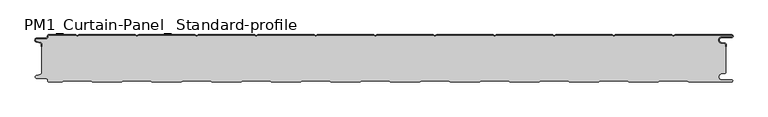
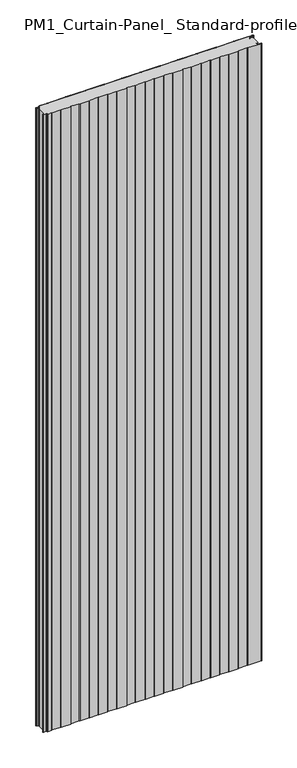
"""IFC4 building model written with IfcOpenShell, lengths in millimetres: plate geometry, PM1_Curtain-Panel_ Standard-profile : ACH_PM1_Acoustic-Sectioning-Panel_80M."""

from ifc_helpers import new_model, si_unit, point, frame, frame_2d, origin, origin_with_axes, place, context, project, spatial, polyline, circle_curve, trimmed, segment, composite_curve, outline, extrude, source, transform, mapped, element, save
from ifc_brep_helpers import plane_surface, cylinder_surface, revolved_surface, advanced_brep


def pm1_curtain_panel_standard_profile_70a947a0(model_context):
    return source(origin(), model_context, "Body", "SolidModel", [
        advanced_brep(
        [(-575.0, -15.878557, 3500.0), (-575.0, -20.0, 3500.0), (-574.2, -20.0, 3500.0), (-574.2, -15.878557, 3500.0), (-576.370137, -13.1503208, 3500.0), (-582.529863, -11.728236, 3500.0), (-581.9, -6.2, 3500.0), (-566.4, -6.2, 3500.0), (-563.6, -3.4, 3500.0), (-563.6, -2.0, 3500.0), (-562.4, -0.8, 3500.0), (-517.3143588, -0.8, 3500.0), (-514.4, -2.482606, 3500.0), (-511.4856412, -0.8, 3500.0), (-417.3143588, -0.8, 3500.0), (-414.4, -2.482606, 3500.0), (-411.4856412, -0.8, 3500.0), (-317.3143588, -0.8, 3500.0), (-314.4, -2.482606, 3500.0), (-311.4856412, -0.8, 3500.0), (-217.3143588, -0.8, 3500.0), (-214.4, -2.482606, 3500.0), (-211.4856412, -0.8, 3500.0), (-117.3143588, -0.8, 3500.0), (-114.4, -2.482606, 3500.0), (-111.4856412, -0.8, 3500.0), (-17.3143588, -0.8, 3500.0), (-14.4, -2.482606, 3500.0), (-11.4856412, -0.8, 3500.0), (82.6856412, -0.8, 3500.0), (85.6, -2.482606, 3500.0), (88.5143588, -0.8, 3500.0), (182.6856412, -0.8, 3500.0), (185.6, -2.482606, 3500.0), (188.5143588, -0.8, 3500.0), (282.6856412, -0.8, 3500.0), (285.6, -2.482606, 3500.0), (288.5143588, -0.8, 3500.0), (382.6856412, -0.8, 3500.0), (385.6, -2.482606, 3500.0), (388.5143588, -0.8, 3500.0), (482.6856412, -0.8, 3500.0), (485.6, -2.482606, 3500.0), (488.5143588, -0.8, 3500.0), (583.1, -0.8, 3500.0), (583.1, -4.2, 3500.0), (566.1, -4.2, 3500.0), (565.2664884, -13.7270771, 3500.0), (571.7125669, -14.8636953, 3500.0), (573.2, -16.6363492, 3500.0), (573.2, -20.0, 3500.0), (574.0, -20.0, 3500.0), (574.0, -16.6363492, 3500.0), (571.8514855, -14.0758491, 3500.0), (565.405407, -12.939231, 3500.0), (566.1, -5.0, 3500.0), (583.1, -5.0, 3500.0), (585.6, -2.5, 3500.0), (583.1, 0.0, 3500.0), (488.2999995, 0.0, 3500.0), (485.6, -1.5588455, 3500.0), (482.9000005, 0.0, 3500.0), (388.2999995, 0.0, 3500.0), (385.6, -1.5588455, 3500.0), (382.9000005, 0.0, 3500.0), (288.2999995, 0.0, 3500.0), (285.6, -1.5588455, 3500.0), (282.9000005, 0.0, 3500.0), (188.2999995, 0.0, 3500.0), (185.6, -1.5588455, 3500.0), (182.9000005, 0.0, 3500.0), (88.2999995, 0.0, 3500.0), (85.6, -1.5588455, 3500.0), (82.9000005, 0.0, 3500.0), (-11.7000005, 0.0, 3500.0), (-14.4, -1.5588455, 3500.0), (-17.0999995, 0.0, 3500.0), (-111.7000005, 0.0, 3500.0), (-114.4, -1.5588455, 3500.0), (-117.0999995, 0.0, 3500.0), (-211.7000005, 0.0, 3500.0), (-214.4, -1.5588455, 3500.0), (-217.0999995, 0.0, 3500.0), (-311.7000005, 0.0, 3500.0), (-314.4, -1.5588455, 3500.0), (-317.0999995, 0.0, 3500.0), (-411.7000005, 0.0, 3500.0), (-414.4, -1.5588455, 3500.0), (-417.0999995, 0.0, 3500.0), (-511.7000005, 0.0, 3500.0), (-514.4, -1.5588455, 3500.0), (-517.0999995, 0.0, 3500.0), (-562.4, 0.0, 3500.0), (-564.4, -2.0, 3500.0), (-564.4, -3.4, 3500.0), (-566.4, -5.4, 3500.0), (-581.9, -5.4, 3500.0), (-582.7098239, -12.5077322, 3500.0), (-576.5500979, -13.929817, 3500.0), (-575.0, -15.878557, 0.0), (-576.5500978, -13.9298169, 0.0), (-582.7098239, -12.507732, 0.0), (-581.9, -5.4, 0.0), (-566.4, -5.4, 0.0), (-564.4, -3.4, 0.0), (-564.4, -2.0, 0.0), (-562.4, 0.0, 0.0), (-517.0999995, 0.0, 0.0), (-514.4, -1.5588455, 0.0), (-511.7000005, 0.0, 0.0), (-417.0999995, 0.0, 0.0), (-414.4, -1.5588455, 0.0), (-411.7000005, 0.0, 0.0), (-317.0999995, 0.0, 0.0), (-314.4, -1.5588455, 0.0), (-311.7000005, 0.0, 0.0), (-217.0999995, 0.0, 0.0), (-214.4, -1.5588455, 0.0), (-211.7000005, 0.0, 0.0), (-117.0999995, 0.0, 0.0), (-114.4, -1.5588455, 0.0), (-111.7000005, 0.0, 0.0), (-17.0999995, 0.0, 0.0), (-14.4, -1.5588455, 0.0), (-11.7000005, 0.0, 0.0), (82.9000005, 0.0, 0.0), (85.6, -1.5588455, 0.0), (88.2999995, 0.0, 0.0), (182.9000005, 0.0, 0.0), (185.6, -1.5588455, 0.0), (188.2999995, 0.0, 0.0), (282.9000005, 0.0, 0.0), (285.6, -1.5588455, 0.0), (288.2999995, 0.0, 0.0), (382.9000005, 0.0, 0.0), (385.6, -1.5588455, 0.0), (388.2999995, 0.0, 0.0), (482.9000005, 0.0, 0.0), (485.6, -1.5588455, 0.0), (488.2999995, 0.0, 0.0), (583.1, 0.0, 0.0), (585.6, -2.5, 0.0), (583.1, -5.0, 0.0), (566.1, -5.0, 0.0), (565.405407, -12.939231, 0.0), (571.8514855, -14.0758491, 0.0), (574.0, -16.6363492, 0.0), (574.0, -20.0, 0.0), (573.2, -20.0, 0.0), (573.2, -16.6363492, 0.0), (571.7125669, -14.8636953, 0.0), (565.2664884, -13.7270772, 0.0), (566.1, -4.2, 0.0), (583.1, -4.2, 0.0), (583.1, -0.8, 0.0), (488.5143588, -0.8, 0.0), (485.6, -2.482606, 0.0), (482.6856412, -0.8, 0.0), (388.5143588, -0.8, 0.0), (385.6, -2.482606, 0.0), (382.6856412, -0.8, 0.0), (288.5143588, -0.8, 0.0), (285.6, -2.482606, 0.0), (282.6856412, -0.8, 0.0), (188.5143588, -0.8, 0.0), (185.6, -2.482606, 0.0), (182.6856412, -0.8, 0.0), (88.5143588, -0.8, 0.0), (85.6, -2.482606, 0.0), (82.6856412, -0.8, 0.0), (-11.4856412, -0.8, 0.0), (-14.4, -2.482606, 0.0), (-17.3143588, -0.8, 0.0), (-111.4856412, -0.8, 0.0), (-114.4, -2.482606, 0.0), (-117.3143588, -0.8, 0.0), (-211.4856412, -0.8, 0.0), (-214.4, -2.482606, 0.0), (-217.3143588, -0.8, 0.0), (-311.4856412, -0.8, 0.0), (-314.4, -2.482606, 0.0), (-317.3143588, -0.8, 0.0), (-411.4856412, -0.8, 0.0), (-414.4, -2.482606, 0.0), (-417.3143588, -0.8, 0.0), (-511.4856412, -0.8, 0.0), (-514.4, -2.482606, 0.0), (-517.3143588, -0.8, 0.0), (-562.4, -0.8, 0.0), (-563.6, -2.0, 0.0), (-563.6, -3.4, 0.0), (-566.4, -6.2, 0.0), (-581.9, -6.2, 0.0), (-582.529863, -11.7282362, 0.0), (-576.370137, -13.150321, 0.0), (-574.2, -15.878557, 0.0), (-574.2, -20.0, 0.0), (-575.0, -20.0, 0.0)],
        [
            (0, 1),
            (1, 2),
            (2, 3),
            (3, 4, circle_curve(frame((-577.0, -15.878557, 3500.0), z_axis=(0.0, 0.0, 1.0), x_axis=(1.0, 0.0, 0.0)), 2.8)),
            (4, 5),
            (5, 6, circle_curve(frame((-581.9, -9.0, 3500.0), z_axis=(0.0, 0.0, -1.0), x_axis=(1.0, 0.0, 0.0)), 2.8)),
            (6, 7),
            (7, 8, circle_curve(frame((-566.4, -3.4, 3500.0), z_axis=(0.0, 0.0, 1.0), x_axis=(1.0, 0.0, 0.0)), 2.8)),
            (8, 9),
            (9, 10, circle_curve(frame((-562.4, -2.0, 3500.0), z_axis=(0.0, 0.0, -1.0), x_axis=(1.0, 0.0, 0.0)), 1.2)),
            (10, 11),
            (11, 12),
            (12, 13),
            (13, 14),
            (14, 15),
            (15, 16),
            (16, 17),
            (17, 18),
            (18, 19),
            (19, 20),
            (20, 21),
            (21, 22),
            (22, 23),
            (23, 24),
            (24, 25),
            (25, 26),
            (26, 27),
            (27, 28),
            (28, 29),
            (29, 30),
            (30, 31),
            (31, 32),
            (32, 33),
            (33, 34),
            (34, 35),
            (35, 36),
            (36, 37),
            (37, 38),
            (38, 39),
            (39, 40),
            (40, 41),
            (41, 42),
            (42, 43),
            (43, 44),
            (44, 45, circle_curve(frame((583.1, -2.5, 3500.0), z_axis=(0.0, 0.0, -1.0), x_axis=(1.0, 0.0, 0.0)), 1.7)),
            (45, 46),
            (46, 47, circle_curve(frame((566.1, -9.0, 3500.0), z_axis=(0.0, 0.0, 1.0), x_axis=(1.0, 0.0, 0.0)), 4.8)),
            (47, 48),
            (48, 49, circle_curve(frame((571.4, -16.6363492, 3500.0), z_axis=(0.0, 0.0, -1.0), x_axis=(1.0, 0.0, 0.0)), 1.8)),
            (49, 50),
            (50, 51),
            (51, 52),
            (52, 53, circle_curve(frame((571.4, -16.6363492, 3500.0), z_axis=(0.0, 0.0, 1.0), x_axis=(1.0, 0.0, 0.0)), 2.6)),
            (53, 54),
            (54, 55, circle_curve(frame((566.1, -9.0, 3500.0), z_axis=(0.0, 0.0, -1.0), x_axis=(1.0, 0.0, 0.0)), 4.0)),
            (55, 56),
            (56, 57, circle_curve(frame((583.1, -2.5, 3500.0), z_axis=(0.0, 0.0, 1.0), x_axis=(1.0, 0.0, 0.0)), 2.5)),
            (57, 58, circle_curve(frame((583.1, -2.5, 3500.0), z_axis=(0.0, 0.0, 1.0), x_axis=(1.0, 0.0, 0.0)), 2.5)),
            (58, 59),
            (59, 60),
            (60, 61),
            (61, 62),
            (62, 63),
            (63, 64),
            (64, 65),
            (65, 66),
            (66, 67),
            (67, 68),
            (68, 69),
            (69, 70),
            (70, 71),
            (71, 72),
            (72, 73),
            (73, 74),
            (74, 75),
            (75, 76),
            (76, 77),
            (77, 78),
            (78, 79),
            (79, 80),
            (80, 81),
            (81, 82),
            (82, 83),
            (83, 84),
            (84, 85),
            (85, 86),
            (86, 87),
            (87, 88),
            (88, 89),
            (89, 90),
            (90, 91),
            (91, 92),
            (92, 93, circle_curve(frame((-562.4, -2.0, 3500.0), z_axis=(0.0, 0.0, 1.0), x_axis=(1.0, 0.0, 0.0)), 2.0)),
            (93, 94),
            (94, 95, circle_curve(frame((-566.4, -3.4, 3500.0), z_axis=(0.0, 0.0, -1.0), x_axis=(1.0, 0.0, 0.0)), 2.0)),
            (95, 96),
            (96, 97, circle_curve(frame((-581.9, -9.0, 3500.0), z_axis=(0.0, 0.0, 1.0), x_axis=(1.0, 0.0, 0.0)), 3.6)),
            (97, 98),
            (98, 0, circle_curve(frame((-577.0, -15.878557, 3500.0), z_axis=(0.0, 0.0, -1.0), x_axis=(1.0, 0.0, 0.0)), 2.0)),
            (99, 100, circle_curve(frame((-577.0, -15.878557, 0.0), z_axis=(0.0, 0.0, 1.0), x_axis=(1.0, 0.0, 0.0)), 2.0)),
            (100, 101),
            (101, 102, circle_curve(frame((-581.9, -9.0, 0.0), z_axis=(0.0, 0.0, -1.0), x_axis=(1.0, 0.0, 0.0)), 3.6)),
            (102, 103),
            (103, 104, circle_curve(frame((-566.4, -3.4, 0.0), z_axis=(0.0, 0.0, 1.0), x_axis=(1.0, 0.0, 0.0)), 2.0)),
            (104, 105),
            (105, 106, circle_curve(frame((-562.4, -2.0, 0.0), z_axis=(0.0, 0.0, -1.0), x_axis=(1.0, 0.0, 0.0)), 2.0)),
            (106, 107),
            (107, 108),
            (108, 109),
            (109, 110),
            (110, 111),
            (111, 112),
            (112, 113),
            (113, 114),
            (114, 115),
            (115, 116),
            (116, 117),
            (117, 118),
            (118, 119),
            (119, 120),
            (120, 121),
            (121, 122),
            (122, 123),
            (123, 124),
            (124, 125),
            (125, 126),
            (126, 127),
            (127, 128),
            (128, 129),
            (129, 130),
            (130, 131),
            (131, 132),
            (132, 133),
            (133, 134),
            (134, 135),
            (135, 136),
            (136, 137),
            (137, 138),
            (138, 139),
            (139, 140),
            (140, 141, circle_curve(frame((583.1, -2.5, 0.0), z_axis=(0.0, 0.0, -1.0), x_axis=(1.0, 0.0, 0.0)), 2.5)),
            (141, 142, circle_curve(frame((583.1, -2.5, 0.0), z_axis=(0.0, 0.0, -1.0), x_axis=(1.0, 0.0, 0.0)), 2.5)),
            (142, 143),
            (143, 144, circle_curve(frame((566.1, -9.0, 0.0), z_axis=(0.0, 0.0, 1.0), x_axis=(1.0, 0.0, 0.0)), 4.0)),
            (144, 145),
            (145, 146, circle_curve(frame((571.4, -16.6363492, 0.0), z_axis=(0.0, 0.0, -1.0), x_axis=(1.0, 0.0, 0.0)), 2.6)),
            (146, 147),
            (147, 148),
            (148, 149),
            (149, 150, circle_curve(frame((571.4, -16.6363492, 0.0), z_axis=(0.0, 0.0, 1.0), x_axis=(1.0, 0.0, 0.0)), 1.8)),
            (150, 151),
            (151, 152, circle_curve(frame((566.1, -9.0, 0.0), z_axis=(0.0, 0.0, -1.0), x_axis=(1.0, 0.0, 0.0)), 4.8)),
            (152, 153),
            (153, 154, circle_curve(frame((583.1, -2.5, 0.0), z_axis=(0.0, 0.0, 1.0), x_axis=(1.0, 0.0, 0.0)), 1.7)),
            (154, 155),
            (155, 156),
            (156, 157),
            (157, 158),
            (158, 159),
            (159, 160),
            (160, 161),
            (161, 162),
            (162, 163),
            (163, 164),
            (164, 165),
            (165, 166),
            (166, 167),
            (167, 168),
            (168, 169),
            (169, 170),
            (170, 171),
            (171, 172),
            (172, 173),
            (173, 174),
            (174, 175),
            (175, 176),
            (176, 177),
            (177, 178),
            (178, 179),
            (179, 180),
            (180, 181),
            (181, 182),
            (182, 183),
            (183, 184),
            (184, 185),
            (185, 186),
            (186, 187),
            (187, 188),
            (188, 189, circle_curve(frame((-562.4, -2.0, 0.0), z_axis=(0.0, 0.0, 1.0), x_axis=(1.0, 0.0, 0.0)), 1.2)),
            (189, 190),
            (190, 191, circle_curve(frame((-566.4, -3.4, 0.0), z_axis=(0.0, 0.0, -1.0), x_axis=(1.0, 0.0, 0.0)), 2.8)),
            (191, 192),
            (192, 193, circle_curve(frame((-581.9, -9.0, 0.0), z_axis=(0.0, 0.0, 1.0), x_axis=(1.0, 0.0, 0.0)), 2.8)),
            (193, 194),
            (194, 195, circle_curve(frame((-577.0, -15.878557, 0.0), z_axis=(0.0, 0.0, -1.0), x_axis=(1.0, 0.0, 0.0)), 2.8)),
            (195, 196),
            (196, 197),
            (197, 99),
            (0, 99),
            (197, 1),
            (196, 2),
            (195, 3),
            (194, 4),
            (193, 5),
            (192, 6),
            (191, 7),
            (190, 8),
            (189, 9),
            (188, 10),
            (187, 11),
            (186, 12),
            (185, 13),
            (184, 14),
            (183, 15),
            (182, 16),
            (181, 17),
            (180, 18),
            (179, 19),
            (178, 20),
            (177, 21),
            (176, 22),
            (175, 23),
            (174, 24),
            (173, 25),
            (172, 26),
            (171, 27),
            (170, 28),
            (169, 29),
            (168, 30),
            (167, 31),
            (166, 32),
            (165, 33),
            (164, 34),
            (163, 35),
            (162, 36),
            (161, 37),
            (160, 38),
            (159, 39),
            (158, 40),
            (157, 41),
            (156, 42),
            (155, 43),
            (154, 44),
            (153, 45),
            (152, 46),
            (151, 47),
            (150, 48),
            (149, 49),
            (148, 50),
            (147, 51),
            (146, 52),
            (145, 53),
            (144, 54),
            (143, 55),
            (142, 56),
            (140, 58),
            (139, 59),
            (138, 60),
            (137, 61),
            (136, 62),
            (135, 63),
            (134, 64),
            (133, 65),
            (132, 66),
            (131, 67),
            (130, 68),
            (129, 69),
            (128, 70),
            (127, 71),
            (126, 72),
            (125, 73),
            (124, 74),
            (123, 75),
            (122, 76),
            (121, 77),
            (120, 78),
            (119, 79),
            (118, 80),
            (117, 81),
            (116, 82),
            (115, 83),
            (114, 84),
            (113, 85),
            (112, 86),
            (111, 87),
            (110, 88),
            (109, 89),
            (108, 90),
            (107, 91),
            (106, 92),
            (105, 93),
            (104, 94),
            (103, 95),
            (102, 96),
            (101, 97),
            (100, 98),
        ],
        [
            plane_surface(frame((-575.0, 0.0, 3500.0), z_axis=(0.0, 0.0, 1.0), x_axis=(0.0, 1.0, 0.0))),
            plane_surface(frame((-575.0, 0.0, 0.0), z_axis=(0.0, 0.0, -1.0), x_axis=(0.0, 1.0, 0.0))),
            plane_surface(frame((-575.0, -15.878557, 3500.0), z_axis=(-1.0, 0.0, 0.0), x_axis=(0.0, 0.0, -1.0))),
            plane_surface(frame((-575.0, -20.0, 3500.0), z_axis=(0.0, -1.0, 0.0), x_axis=(0.0, 0.0, -1.0))),
            plane_surface(frame((-574.2, -20.0, 3500.0), z_axis=(1.0, 0.0, 0.0), x_axis=(0.0, 0.0, -1.0))),
            cylinder_surface(frame((-577.0, -15.878557, 3500.0), z_axis=(0.0, 0.0, 1.0), x_axis=(1.0, 0.0, 0.0)), 2.8),
            plane_surface(frame((-576.370137, -13.150321, 3500.0), z_axis=(0.22495108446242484, 0.9743700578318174, 0.0), x_axis=(0.0, 0.0, -1.0))),
            revolved_surface(polyline([(-579.1, -9.0, 0.0), (-579.1, -9.0, 3500.0)]), (-581.9, -9.0, 3500.0), (0.0, 0.0, -1.0)),
            plane_surface(frame((-581.9, -6.2, 3500.0), z_axis=(0.0, -1.0, 0.0), x_axis=(0.0, 0.0, -1.0))),
            cylinder_surface(frame((-566.4, -3.4, 3500.0), z_axis=(0.0, 0.0, 1.0), x_axis=(1.0, 0.0, 0.0)), 2.8),
            plane_surface(frame((-563.6, -3.4, 3500.0), z_axis=(1.0, 0.0, 0.0), x_axis=(0.0, 0.0, -1.0))),
            revolved_surface(polyline([(-561.1999999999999, -2.0, 0.0), (-561.1999999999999, -2.0, 3500.0)]), (-562.4, -2.0, 3500.0), (0.0, 0.0, -1.0)),
            plane_surface(frame((-562.4, -0.8, 3500.0), z_axis=(0.0, -1.0, 0.0), x_axis=(0.0, 0.0, -1.0))),
            plane_surface(frame((-517.3143588, -0.8, 3500.0), z_axis=(-0.5000000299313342, -0.8660253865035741, 0.0), x_axis=(0.0, 0.0, -1.0))),
            plane_surface(frame((-514.4, -2.482606, 3500.0), z_axis=(0.5000000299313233, -0.8660253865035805, 0.0), x_axis=(0.0, 0.0, -1.0))),
            plane_surface(frame((-511.4856412, -0.8, 3500.0), z_axis=(0.0, -1.0, 0.0), x_axis=(0.0, 0.0, -1.0))),
            plane_surface(frame((-417.3143588, -0.8, 3500.0), z_axis=(-0.5000000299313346, -0.8660253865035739, 0.0), x_axis=(0.0, 0.0, -1.0))),
            plane_surface(frame((-414.4, -2.482606, 3500.0), z_axis=(0.5000000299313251, -0.8660253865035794, 0.0), x_axis=(0.0, 0.0, -1.0))),
            plane_surface(frame((-411.4856412, -0.8, 3500.0), z_axis=(0.0, -1.0, 0.0), x_axis=(0.0, 0.0, -1.0))),
            plane_surface(frame((-317.3143588, -0.8, 3500.0), z_axis=(-0.5000000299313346, -0.866025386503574, 0.0), x_axis=(0.0, 0.0, -1.0))),
            plane_surface(frame((-314.4, -2.482606, 3500.0), z_axis=(0.5000000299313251, -0.8660253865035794, 0.0), x_axis=(0.0, 0.0, -1.0))),
            plane_surface(frame((-311.4856412, -0.8, 3500.0), z_axis=(0.0, -1.0, 0.0), x_axis=(0.0, 0.0, -1.0))),
            plane_surface(frame((-217.3143588, -0.8, 3500.0), z_axis=(-0.5000000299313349, -0.8660253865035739, 0.0), x_axis=(0.0, 0.0, -1.0))),
            plane_surface(frame((-214.4, -2.482606, 3500.0), z_axis=(0.5000000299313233, -0.8660253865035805, 0.0), x_axis=(0.0, 0.0, -1.0))),
            plane_surface(frame((-211.4856412, -0.8, 3500.0), z_axis=(0.0, -1.0, 0.0), x_axis=(0.0, 0.0, -1.0))),
            plane_surface(frame((-117.3143588, -0.8, 3500.0), z_axis=(-0.5000000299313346, -0.866025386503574, 0.0), x_axis=(0.0, 0.0, -1.0))),
            plane_surface(frame((-114.4, -2.482606, 3500.0), z_axis=(0.5000000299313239, -0.8660253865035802, 0.0), x_axis=(0.0, 0.0, -1.0))),
            plane_surface(frame((-111.4856412, -0.8, 3500.0), z_axis=(0.0, -1.0, 0.0), x_axis=(0.0, 0.0, -1.0))),
            plane_surface(frame((-17.3143588, -0.8, 3500.0), z_axis=(-0.5000000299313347, -0.8660253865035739, 0.0), x_axis=(0.0, 0.0, -1.0))),
            plane_surface(frame((-14.4, -2.482606, 3500.0), z_axis=(0.5000000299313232, -0.8660253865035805, 0.0), x_axis=(0.0, 0.0, -1.0))),
            plane_surface(frame((-11.4856412, -0.8, 3500.0), z_axis=(0.0, -1.0, 0.0), x_axis=(0.0, 0.0, -1.0))),
            plane_surface(frame((82.6856412, -0.8, 3500.0), z_axis=(-0.5000000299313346, -0.866025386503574, 0.0), x_axis=(0.0, 0.0, -1.0))),
            plane_surface(frame((85.6, -2.482606, 3500.0), z_axis=(0.5000000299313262, -0.8660253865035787, 0.0), x_axis=(0.0, 0.0, -1.0))),
            plane_surface(frame((88.5143588, -0.8, 3500.0), z_axis=(0.0, -1.0, 0.0), x_axis=(0.0, 0.0, -1.0))),
            plane_surface(frame((182.6856412, -0.8, 3500.0), z_axis=(-0.5000000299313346, -0.8660253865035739, 0.0), x_axis=(0.0, 0.0, -1.0))),
            plane_surface(frame((185.6, -2.482606, 3500.0), z_axis=(0.5000000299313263, -0.8660253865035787, 0.0), x_axis=(0.0, 0.0, -1.0))),
            plane_surface(frame((188.5143588, -0.8, 3500.0), z_axis=(0.0, -1.0, 0.0), x_axis=(0.0, 0.0, -1.0))),
            plane_surface(frame((282.6856412, -0.8, 3500.0), z_axis=(-0.5000000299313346, -0.8660253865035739, 0.0), x_axis=(0.0, 0.0, -1.0))),
            plane_surface(frame((285.6, -2.482606, 3500.0), z_axis=(0.5000000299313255, -0.8660253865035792, 0.0), x_axis=(0.0, 0.0, -1.0))),
            plane_surface(frame((288.5143588, -0.8, 3500.0), z_axis=(0.0, -1.0, 0.0), x_axis=(0.0, 0.0, -1.0))),
            plane_surface(frame((382.6856412, -0.8, 3500.0), z_axis=(-0.5000000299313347, -0.8660253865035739, 0.0), x_axis=(0.0, 0.0, -1.0))),
            plane_surface(frame((385.6, -2.482606, 3500.0), z_axis=(0.5000000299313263, -0.8660253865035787, 0.0), x_axis=(0.0, 0.0, -1.0))),
            plane_surface(frame((388.5143588, -0.8, 3500.0), z_axis=(0.0, -1.0, 0.0), x_axis=(0.0, 0.0, -1.0))),
            plane_surface(frame((482.6856412, -0.8, 3500.0), z_axis=(-0.5000000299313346, -0.866025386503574, 0.0), x_axis=(0.0, 0.0, -1.0))),
            plane_surface(frame((485.6, -2.482606, 3500.0), z_axis=(0.5000000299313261, -0.8660253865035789, 0.0), x_axis=(0.0, 0.0, -1.0))),
            plane_surface(frame((535.6, -0.8, 3500.0), z_axis=(0.0, -1.0, 0.0), x_axis=(0.0, 0.0, -1.0))),
            revolved_surface(polyline([(584.8000000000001, -2.5, 0.0), (584.8000000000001, -2.5, 3500.0)]), (583.1, -2.5, 3500.0), (0.0, 0.0, -1.0)),
            plane_surface(frame((583.1, -4.2, 3500.0), z_axis=(0.0, 1.0, 0.0), x_axis=(0.0, 0.0, -1.0))),
            cylinder_surface(frame((566.1, -9.0, 3500.0), z_axis=(0.0, 0.0, 1.0), x_axis=(1.0, 0.0, 0.0)), 4.8),
            plane_surface(frame((565.2664884, -13.7270772, 3500.0), z_axis=(-0.17364825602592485, -0.9848077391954, 0.0), x_axis=(0.0, 0.0, -1.0))),
            revolved_surface(polyline([(573.1999999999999, -16.6363492, 0.0), (573.1999999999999, -16.6363492, 3500.0)]), (571.4, -16.6363492, 3500.0), (0.0, 0.0, -1.0)),
            plane_surface(frame((573.2, -16.6363492, 3500.0), z_axis=(-1.0, 0.0, 0.0), x_axis=(0.0, 0.0, -1.0))),
            plane_surface(frame((573.2, -20.0, 3500.0), z_axis=(0.0, -1.0, 0.0), x_axis=(0.0, 0.0, -1.0))),
            plane_surface(frame((574.0, -20.0, 3500.0), z_axis=(1.0, 0.0, 0.0), x_axis=(0.0, 0.0, -1.0))),
            cylinder_surface(frame((571.4, -16.6363492, 3500.0), z_axis=(0.0, 0.0, 1.0), x_axis=(1.0, 0.0, 0.0)), 2.6),
            plane_surface(frame((571.8514855, -14.0758491, 3500.0), z_axis=(0.1736482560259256, 0.9848077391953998, 0.0), x_axis=(0.0, 0.0, -1.0))),
            revolved_surface(polyline([(570.1, -9.0, 0.0), (570.1, -9.0, 3500.0)]), (566.1, -9.0, 3500.0), (0.0, 0.0, -1.0)),
            plane_surface(frame((566.1, -5.0, 3500.0), z_axis=(0.0, -1.0, 0.0), x_axis=(0.0, 0.0, -1.0))),
            cylinder_surface(frame((583.1, -2.5, 3500.0), z_axis=(0.0, 0.0, 1.0), x_axis=(1.0, 0.0, 0.0)), 2.5),
            plane_surface(frame((535.6, 0.0, 3500.0), z_axis=(0.0, 1.0, 0.0), x_axis=(0.0, 0.0, -1.0))),
            plane_surface(frame((488.2999995, 0.0, 3500.0), z_axis=(-0.5000000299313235, 0.8660253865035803, 0.0), x_axis=(0.0, 0.0, -1.0))),
            plane_surface(frame((485.6, -1.5588455, 3500.0), z_axis=(0.5000000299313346, 0.8660253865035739, 0.0), x_axis=(0.0, 0.0, -1.0))),
            plane_surface(frame((482.9000005, 0.0, 3500.0), z_axis=(0.0, 1.0, 0.0), x_axis=(0.0, 0.0, -1.0))),
            plane_surface(frame((388.2999995, 0.0, 3500.0), z_axis=(-0.5000000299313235, 0.8660253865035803, 0.0), x_axis=(0.0, 0.0, -1.0))),
            plane_surface(frame((385.6, -1.5588455, 3500.0), z_axis=(0.5000000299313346, 0.8660253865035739, 0.0), x_axis=(0.0, 0.0, -1.0))),
            plane_surface(frame((382.9000005, 0.0, 3500.0), z_axis=(0.0, 1.0, 0.0), x_axis=(0.0, 0.0, -1.0))),
            plane_surface(frame((288.2999995, 0.0, 3500.0), z_axis=(-0.5000000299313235, 0.8660253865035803, 0.0), x_axis=(0.0, 0.0, -1.0))),
            plane_surface(frame((285.6, -1.5588455, 3500.0), z_axis=(0.5000000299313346, 0.8660253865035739, 0.0), x_axis=(0.0, 0.0, -1.0))),
            plane_surface(frame((282.9000005, 0.0, 3500.0), z_axis=(0.0, 1.0, 0.0), x_axis=(0.0, 0.0, -1.0))),
            plane_surface(frame((188.2999995, 0.0, 3500.0), z_axis=(-0.5000000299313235, 0.8660253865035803, 0.0), x_axis=(0.0, 0.0, -1.0))),
            plane_surface(frame((185.6, -1.5588455, 3500.0), z_axis=(0.5000000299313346, 0.8660253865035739, 0.0), x_axis=(0.0, 0.0, -1.0))),
            plane_surface(frame((182.9000005, 0.0, 3500.0), z_axis=(0.0, 1.0, 0.0), x_axis=(0.0, 0.0, -1.0))),
            plane_surface(frame((88.2999995, 0.0, 3500.0), z_axis=(-0.5000000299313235, 0.8660253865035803, 0.0), x_axis=(0.0, 0.0, -1.0))),
            plane_surface(frame((85.6, -1.5588455, 3500.0), z_axis=(0.5000000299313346, 0.8660253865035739, 0.0), x_axis=(0.0, 0.0, -1.0))),
            plane_surface(frame((82.9000005, 0.0, 3500.0), z_axis=(0.0, 1.0, 0.0), x_axis=(0.0, 0.0, -1.0))),
            plane_surface(frame((-11.7000005, 0.0, 3500.0), z_axis=(-0.5000000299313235, 0.8660253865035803, 0.0), x_axis=(0.0, 0.0, -1.0))),
            plane_surface(frame((-14.4, -1.5588455, 3500.0), z_axis=(0.5000000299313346, 0.8660253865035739, 0.0), x_axis=(0.0, 0.0, -1.0))),
            plane_surface(frame((-17.0999995, 0.0, 3500.0), z_axis=(0.0, 1.0, 0.0), x_axis=(0.0, 0.0, -1.0))),
            plane_surface(frame((-111.7000005, 0.0, 3500.0), z_axis=(-0.5000000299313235, 0.8660253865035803, 0.0), x_axis=(0.0, 0.0, -1.0))),
            plane_surface(frame((-114.4, -1.5588455, 3500.0), z_axis=(0.5000000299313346, 0.8660253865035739, 0.0), x_axis=(0.0, 0.0, -1.0))),
            plane_surface(frame((-117.0999995, 0.0, 3500.0), z_axis=(0.0, 1.0, 0.0), x_axis=(0.0, 0.0, -1.0))),
            plane_surface(frame((-211.7000005, 0.0, 3500.0), z_axis=(-0.5000000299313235, 0.8660253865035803, 0.0), x_axis=(0.0, 0.0, -1.0))),
            plane_surface(frame((-214.4, -1.5588455, 3500.0), z_axis=(0.5000000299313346, 0.8660253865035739, 0.0), x_axis=(0.0, 0.0, -1.0))),
            plane_surface(frame((-217.0999995, 0.0, 3500.0), z_axis=(0.0, 1.0, 0.0), x_axis=(0.0, 0.0, -1.0))),
            plane_surface(frame((-311.7000005, 0.0, 3500.0), z_axis=(-0.5000000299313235, 0.8660253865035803, 0.0), x_axis=(0.0, 0.0, -1.0))),
            plane_surface(frame((-314.4, -1.5588455, 3500.0), z_axis=(0.5000000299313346, 0.8660253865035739, 0.0), x_axis=(0.0, 0.0, -1.0))),
            plane_surface(frame((-317.0999995, 0.0, 3500.0), z_axis=(0.0, 1.0, 0.0), x_axis=(0.0, 0.0, -1.0))),
            plane_surface(frame((-411.7000005, 0.0, 3500.0), z_axis=(-0.5000000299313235, 0.8660253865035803, 0.0), x_axis=(0.0, 0.0, -1.0))),
            plane_surface(frame((-414.4, -1.5588455, 3500.0), z_axis=(0.5000000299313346, 0.8660253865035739, 0.0), x_axis=(0.0, 0.0, -1.0))),
            plane_surface(frame((-417.0999995, 0.0, 3500.0), z_axis=(0.0, 1.0, 0.0), x_axis=(0.0, 0.0, -1.0))),
            plane_surface(frame((-511.7000005, 0.0, 3500.0), z_axis=(-0.5000000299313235, 0.8660253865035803, 0.0), x_axis=(0.0, 0.0, -1.0))),
            plane_surface(frame((-514.4, -1.5588455, 3500.0), z_axis=(0.5000000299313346, 0.8660253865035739, 0.0), x_axis=(0.0, 0.0, -1.0))),
            plane_surface(frame((-517.0999995, 0.0, 3500.0), z_axis=(0.0, 1.0, 0.0), x_axis=(0.0, 0.0, -1.0))),
            cylinder_surface(frame((-562.4, -2.0, 3500.0), z_axis=(0.0, 0.0, 1.0), x_axis=(1.0, 0.0, 0.0)), 2.0),
            plane_surface(frame((-564.4, -2.0, 3500.0), z_axis=(-1.0, 0.0, 0.0), x_axis=(0.0, 0.0, -1.0))),
            revolved_surface(polyline([(-564.4, -3.4, 0.0), (-564.4, -3.4, 3500.0)]), (-566.4, -3.4, 3500.0), (0.0, 0.0, -1.0)),
            plane_surface(frame((-566.4, -5.4, 3500.0), z_axis=(0.0, 1.0, 0.0), x_axis=(0.0, 0.0, -1.0))),
            cylinder_surface(frame((-581.9, -9.0, 3500.0), z_axis=(0.0, 0.0, 1.0), x_axis=(1.0, 0.0, 0.0)), 3.6),
            plane_surface(frame((-582.7098239, -12.507732, 3500.0), z_axis=(-0.22495108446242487, -0.9743700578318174, 0.0), x_axis=(0.0, 0.0, -1.0))),
            revolved_surface(polyline([(-575.0, -15.878557, 0.0), (-575.0, -15.878557, 3500.0)]), (-577.0, -15.878557, 3500.0), (0.0, 0.0, -1.0)),
        ],
        [
            (0, [[1, 2, 3, 4, 5, 6, 7, 8, 9, 10, 11, 12, 13, 14, 15, 16, 17, 18, 19, 20, 21, 22, 23, 24, 25, 26, 27, 28, 29, 30, 31, 32, 33, 34, 35, 36, 37, 38, 39, 40, 41, 42, 43, 44, 45, 46, 47, 48, 49, 50, 51, 52, 53, 54, 55, 56, 57, 58, 59, 60, 61, 62, 63, 64, 65, 66, 67, 68, 69, 70, 71, 72, 73, 74, 75, 76, 77, 78, 79, 80, 81, 82, 83, 84, 85, 86, 87, 88, 89, 90, 91, 92, 93, 94, 95, 96, 97, 98, 99]]),
            (1, [[100, 101, 102, 103, 104, 105, 106, 107, 108, 109, 110, 111, 112, 113, 114, 115, 116, 117, 118, 119, 120, 121, 122, 123, 124, 125, 126, 127, 128, 129, 130, 131, 132, 133, 134, 135, 136, 137, 138, 139, 140, 141, 142, 143, 144, 145, 146, 147, 148, 149, 150, 151, 152, 153, 154, 155, 156, 157, 158, 159, 160, 161, 162, 163, 164, 165, 166, 167, 168, 169, 170, 171, 172, 173, 174, 175, 176, 177, 178, 179, 180, 181, 182, 183, 184, 185, 186, 187, 188, 189, 190, 191, 192, 193, 194, 195, 196, 197, 198]]),
            (2, [[-1, 199, -198, 200]]),
            (3, [[-2, -200, -197, 201]]),
            (4, [[-3, -201, -196, 202]]),
            (5, [[-4, -202, -195, 203]]),
            (6, [[-5, -203, -194, 204]]),
            (7, [[-6, -204, -193, 205]]),
            (8, [[-7, -205, -192, 206]]),
            (9, [[-8, -206, -191, 207]]),
            (10, [[-9, -207, -190, 208]]),
            (11, [[-10, -208, -189, 209]]),
            (12, [[-11, -209, -188, 210]]),
            (13, [[-12, -210, -187, 211]]),
            (14, [[-13, -211, -186, 212]]),
            (15, [[-14, -212, -185, 213]]),
            (16, [[-15, -213, -184, 214]]),
            (17, [[-16, -214, -183, 215]]),
            (18, [[-17, -215, -182, 216]]),
            (19, [[-18, -216, -181, 217]]),
            (20, [[-19, -217, -180, 218]]),
            (21, [[-20, -218, -179, 219]]),
            (22, [[-21, -219, -178, 220]]),
            (23, [[-22, -220, -177, 221]]),
            (24, [[-23, -221, -176, 222]]),
            (25, [[-24, -222, -175, 223]]),
            (26, [[-25, -223, -174, 224]]),
            (27, [[-26, -224, -173, 225]]),
            (28, [[-27, -225, -172, 226]]),
            (29, [[-28, -226, -171, 227]]),
            (30, [[-29, -227, -170, 228]]),
            (31, [[-30, -228, -169, 229]]),
            (32, [[-31, -229, -168, 230]]),
            (33, [[-32, -230, -167, 231]]),
            (34, [[-33, -231, -166, 232]]),
            (35, [[-34, -232, -165, 233]]),
            (36, [[-35, -233, -164, 234]]),
            (37, [[-36, -234, -163, 235]]),
            (38, [[-37, -235, -162, 236]]),
            (39, [[-38, -236, -161, 237]]),
            (40, [[-39, -237, -160, 238]]),
            (41, [[-40, -238, -159, 239]]),
            (42, [[-41, -239, -158, 240]]),
            (43, [[-42, -240, -157, 241]]),
            (44, [[-43, -241, -156, 242]]),
            (45, [[-44, -242, -155, 243]]),
            (46, [[-45, -243, -154, 244]]),
            (47, [[-46, -244, -153, 245]]),
            (48, [[-47, -245, -152, 246]]),
            (49, [[-48, -246, -151, 247]]),
            (50, [[-49, -247, -150, 248]]),
            (51, [[-50, -248, -149, 249]]),
            (52, [[-51, -249, -148, 250]]),
            (53, [[-52, -250, -147, 251]]),
            (54, [[-53, -251, -146, 252]]),
            (55, [[-54, -252, -145, 253]]),
            (56, [[-55, -253, -144, 254]]),
            (57, [[-56, -254, -143, 255]]),
            (58, [[-255, -142, -141, 256, -58, -57]]),
            (59, [[-59, -256, -140, 257]]),
            (60, [[-60, -257, -139, 258]]),
            (61, [[-61, -258, -138, 259]]),
            (62, [[-62, -259, -137, 260]]),
            (63, [[-63, -260, -136, 261]]),
            (64, [[-64, -261, -135, 262]]),
            (65, [[-65, -262, -134, 263]]),
            (66, [[-66, -263, -133, 264]]),
            (67, [[-67, -264, -132, 265]]),
            (68, [[-68, -265, -131, 266]]),
            (69, [[-69, -266, -130, 267]]),
            (70, [[-70, -267, -129, 268]]),
            (71, [[-71, -268, -128, 269]]),
            (72, [[-72, -269, -127, 270]]),
            (73, [[-73, -270, -126, 271]]),
            (74, [[-74, -271, -125, 272]]),
            (75, [[-75, -272, -124, 273]]),
            (76, [[-76, -273, -123, 274]]),
            (77, [[-77, -274, -122, 275]]),
            (78, [[-78, -275, -121, 276]]),
            (79, [[-79, -276, -120, 277]]),
            (80, [[-80, -277, -119, 278]]),
            (81, [[-81, -278, -118, 279]]),
            (82, [[-82, -279, -117, 280]]),
            (83, [[-83, -280, -116, 281]]),
            (84, [[-84, -281, -115, 282]]),
            (85, [[-85, -282, -114, 283]]),
            (86, [[-86, -283, -113, 284]]),
            (87, [[-87, -284, -112, 285]]),
            (88, [[-88, -285, -111, 286]]),
            (89, [[-89, -286, -110, 287]]),
            (90, [[-90, -287, -109, 288]]),
            (91, [[-91, -288, -108, 289]]),
            (92, [[-92, -289, -107, 290]]),
            (93, [[-93, -290, -106, 291]]),
            (94, [[-94, -291, -105, 292]]),
            (95, [[-95, -292, -104, 293]]),
            (96, [[-96, -293, -103, 294]]),
            (97, [[-97, -294, -102, 295]]),
            (98, [[-98, -295, -101, 296]]),
            (99, [[-99, -296, -100, -199]]),
        ],
    ),
        extrude(outline(composite_curve([segment(polyline([(-574.2, -64.121443), (-574.2, -15.8785573)]), True, "CONTINUOUS"), segment(trimmed(circle_curve(frame_2d((-577.0, -15.8785573)), 2.8), [point((-574.2, -15.8785573))], [point((-576.370137, -13.1503212))], True, "CARTESIAN"), True, "CONTINUOUS"), segment(polyline([(-576.370137, -13.1503212), (-582.5298631, -11.7282362)]), True, "CONTINUOUS"), segment(trimmed(circle_curve(frame_2d((-581.9, -9.0)), 2.8), [point((-582.5298631, -11.7282362))], [point((-581.9, -6.2))], False, "CARTESIAN"), True, "CONTINUOUS"), segment(polyline([(-581.9, -6.2), (-566.4000001, -6.2)]), True, "CONTINUOUS"), segment(trimmed(circle_curve(frame_2d((-566.4000001, -3.4)), 2.8), [point((-566.4000001, -6.2))], [point((-563.6000001, -3.4))], True, "CARTESIAN"), True, "CONTINUOUS"), segment(polyline([(-563.6000001, -3.4), (-563.6000001, -2.0)]), True, "CONTINUOUS"), segment(trimmed(circle_curve(frame_2d((-562.4000001, -2.0)), 1.2), [point((-563.6000001, -2.0))], [point((-562.4000001, -0.8))], False, "CARTESIAN"), True, "CONTINUOUS"), segment(polyline([(-562.4000001, -0.8), (-517.3143589, -0.8), (-514.4000001, -2.482606), (-511.4856412, -0.8), (-417.3143589, -0.8), (-414.4000001, -2.482606), (-411.4856412, -0.8), (-317.3143589, -0.8), (-314.4000001, -2.482606), (-311.4856412, -0.8), (-217.3143589, -0.8), (-214.4000001, -2.482606), (-211.4856412, -0.8), (-117.3143589, -0.8), (-114.4000001, -2.482606), (-111.4856412, -0.8), (-17.3143589, -0.8), (-14.4000001, -2.482606), (-11.4856412, -0.8), (82.6856411, -0.8), (85.5999999, -2.482606), (88.5143588, -0.8), (182.6856411, -0.8), (185.5999999, -2.482606), (188.5143588, -0.8), (282.6856411, -0.8), (285.5999999, -2.482606), (288.5143588, -0.8), (382.6856411, -0.8), (385.5999999, -2.482606), (388.5143588, -0.8), (482.6856411, -0.8), (485.6, -2.482606), (488.5143588, -0.8), (583.1, -0.8)]), True, "CONTINUOUS"), segment(trimmed(circle_curve(frame_2d((583.1, -2.5)), 1.7), [point((583.1, -0.8))], [point((583.1, -4.2))], False, "CARTESIAN"), True, "CONTINUOUS"), segment(polyline([(583.1, -4.2), (566.1, -4.2)]), True, "CONTINUOUS"), segment(trimmed(circle_curve(frame_2d((566.1, -9.0)), 4.8), [point((566.1, -4.2))], [point((565.2664883, -13.7270771))], True, "CARTESIAN"), True, "CONTINUOUS"), segment(polyline([(565.2664883, -13.7270771), (571.7125668, -14.8636953)]), True, "CONTINUOUS"), segment(trimmed(circle_curve(frame_2d((571.4, -16.6363492)), 1.8), [point((571.7125668, -14.8636953))], [point((573.2, -16.6363492))], False, "CARTESIAN"), True, "CONTINUOUS"), segment(polyline([(573.2, -16.6363492), (573.2, -63.363652)]), True, "CONTINUOUS"), segment(trimmed(circle_curve(frame_2d((571.4, -63.363652)), 1.8), [point((573.2, -63.363652))], [point((571.7125666, -65.1363059))], False, "CARTESIAN"), True, "CONTINUOUS"), segment(polyline([(571.7125666, -65.1363059), (565.266489, -66.272923)]), True, "CONTINUOUS"), segment(trimmed(circle_curve(frame_2d((566.1, -71.0000002)), 4.7999999), [point((565.266489, -66.272923))], [point((566.1, -75.8000001))], True, "CARTESIAN"), True, "CONTINUOUS"), segment(polyline([(566.1, -75.8000001), (583.1, -75.8000001)]), True, "CONTINUOUS"), segment(trimmed(circle_curve(frame_2d((583.1, -77.5)), 1.7), [point((583.1, -75.8000001))], [point((583.1, -79.2))], False, "CARTESIAN"), True, "CONTINUOUS"), segment(polyline([(583.1, -79.2), (510.8105122, -79.2), (508.2124346, -77.7), (462.9837184, -77.7), (460.3856408, -79.2), (410.8105122, -79.2), (408.2124346, -77.7), (362.9837184, -77.7), (360.3856408, -79.2), (310.8105122, -79.2), (308.2124346, -77.7), (262.9837184, -77.7), (260.3856408, -79.2), (210.8105122, -79.2), (208.2124346, -77.7), (162.9837184, -77.7), (160.3856408, -79.2), (110.8105122, -79.2), (108.2124346, -77.7), (62.9837184, -77.7), (60.3856408, -79.2), (10.8105122, -79.2), (8.2124346, -77.7), (-37.0162816, -77.7), (-39.6143592, -79.2), (-89.1894878, -79.2), (-91.7875654, -77.7), (-137.0162816, -77.7), (-139.6143592, -79.2), (-189.1894878, -79.2), (-191.7875654, -77.7), (-237.0162816, -77.7), (-239.6143592, -79.2), (-289.1894878, -79.2), (-291.7875654, -77.7), (-337.0162816, -77.7), (-339.6143592, -79.2), (-389.1894878, -79.2), (-391.7875654, -77.7), (-437.0162816, -77.7), (-439.6143592, -79.2), (-489.1894878, -79.2), (-491.7875654, -77.7), (-537.0162816, -77.7), (-539.6143592, -79.2), (-562.4, -79.2)]), True, "CONTINUOUS"), segment(trimmed(circle_curve(frame_2d((-562.4, -78.0)), 1.2), [point((-562.4, -79.2))], [point((-563.6, -78.0))], False, "CARTESIAN"), True, "CONTINUOUS"), segment(polyline([(-563.6, -78.0), (-563.6, -76.5999998)]), True, "CONTINUOUS"), segment(trimmed(circle_curve(frame_2d((-566.4, -76.5999998)), 2.8), [point((-563.6, -76.5999998))], [point((-566.4, -73.7999998))], True, "CARTESIAN"), True, "CONTINUOUS"), segment(polyline([(-566.4, -73.7999998), (-581.9, -73.7999998)]), True, "CONTINUOUS"), segment(trimmed(circle_curve(frame_2d((-581.9, -71.0)), 2.7999998), [point((-581.9, -73.7999998))], [point((-582.529863, -68.271764))], False, "CARTESIAN"), True, "CONTINUOUS"), segment(polyline([(-582.529863, -68.271764), (-576.370137, -66.8496792)]), True, "CONTINUOUS"), segment(trimmed(circle_curve(frame_2d((-577.0, -64.121443)), 2.8), [point((-576.370137, -66.8496792))], [point((-574.2, -64.121443))], True, "CARTESIAN"), True, "CONTINUOUS")], self_intersect=False)), origin_with_axes(), (0.0, 0.0, 1.0), 3500.0),
    ])


if __name__ == "__main__":
    model = new_model("IFC4")
    model_context = context("Model", 3, world=origin())
    ifc_project = project(units=[si_unit("LENGTHUNIT", "METRE", prefix="MILLI")], contexts=[model_context])
    site = spatial("IfcSite", under=ifc_project)
    building = spatial("IfcBuilding", under=site)
    placement = place(None, origin())
    pm1_curtain_panel_standard_profile_shape = pm1_curtain_panel_standard_profile_70a947a0(model_context)
    element("IfcPlate", 1, ObjectType="PM1_Curtain-Panel_ Standard-profile : ACH_PM1_Acoustic-Sectioning-Panel_80M", at=placement, inside=building, context=model_context, shape_type="MappedRepresentation", body=[
        mapped(pm1_curtain_panel_standard_profile_shape, transform((0.0, 0.0, 0.0), x_axis=(1.0, 0.0, 0.0), y_axis=(0.0, 1.0, 0.0), z_axis=(0.0, 0.0, 1.0))),
    ])
    save(model, "model.ifc")
